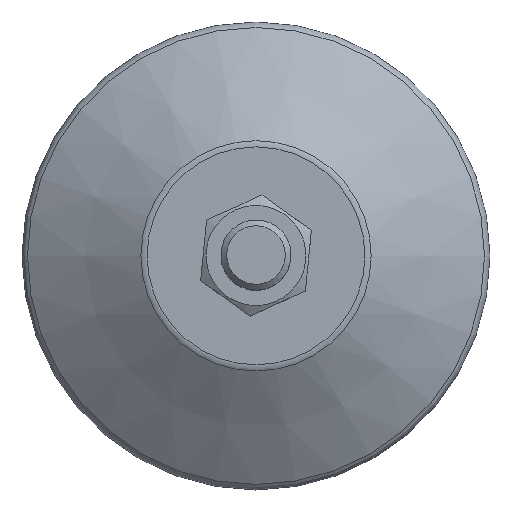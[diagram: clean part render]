
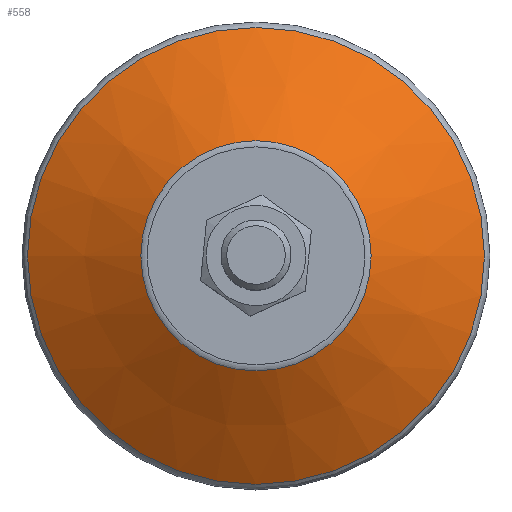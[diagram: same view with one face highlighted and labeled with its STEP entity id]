
A CAD part, top view. The second image highlights one B-rep face of the part: STEP entity #558.
In plain terms, the highlighted conical face has half-angle 58 degrees and reference radius 29.371 mm.
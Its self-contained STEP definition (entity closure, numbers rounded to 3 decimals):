
#558=ADVANCED_FACE('',(#2141,#2143),#2145,.T.);
#2141=FACE_BOUND('',#2142,.T.);
#2142=EDGE_LOOP('',(#3339,#3340));
#2143=FACE_BOUND('',#2144,.T.);
#2144=EDGE_LOOP('',(#3341,#3342));
#2145=CONICAL_SURFACE('',#2146,29.371,1.012);
#2146=AXIS2_PLACEMENT_3D('',#2147,#2148,#2149);
#2147=CARTESIAN_POINT('',(0.,0.,11.642));
#2148=DIRECTION('',(0.,0.,-1.));
#2149=DIRECTION('',(1.,0.,0.));
#3339=ORIENTED_EDGE('',*,*,#4107,.T.);
#3340=ORIENTED_EDGE('',*,*,#4108,.T.);
#3341=ORIENTED_EDGE('',*,*,#4106,.F.);
#3342=ORIENTED_EDGE('',*,*,#4105,.F.);
#4105=EDGE_CURVE('',#4575,#4576,#4577,.T.);
#4106=EDGE_CURVE('',#4576,#4575,#4578,.T.);
#4107=EDGE_CURVE('',#4579,#4580,#4581,.T.);
#4108=EDGE_CURVE('',#4580,#4579,#4582,.T.);
#4575=VERTEX_POINT('',#5891);
#4576=VERTEX_POINT('',#5892);
#4577=CIRCLE('',#5893,19.682);
#4578=CIRCLE('',#5897,19.682);
#4579=VERTEX_POINT('',#5901);
#4580=VERTEX_POINT('',#5902);
#4581=CIRCLE('',#5903,39.06);
#4582=CIRCLE('',#5907,39.06);
#5891=CARTESIAN_POINT('',(19.682,0.,17.696));
#5892=CARTESIAN_POINT('',(-19.682,0.,17.696));
#5893=AXIS2_PLACEMENT_3D('',#5894,#5895,#5896);
#5894=CARTESIAN_POINT('',(0.,0.,17.696));
#5895=DIRECTION('',(0.,0.,1.));
#5896=DIRECTION('',(1.,0.,0.));
#5897=AXIS2_PLACEMENT_3D('',#5898,#5899,#5900);
#5898=CARTESIAN_POINT('',(0.,0.,17.696));
#5899=DIRECTION('',(0.,0.,1.));
#5900=DIRECTION('',(-1.,0.,0.));
#5901=CARTESIAN_POINT('',(39.06,0.,5.587));
#5902=CARTESIAN_POINT('',(-39.06,0.,5.587));
#5903=AXIS2_PLACEMENT_3D('',#5904,#5905,#5906);
#5904=CARTESIAN_POINT('',(0.,0.,5.587));
#5905=DIRECTION('',(0.,0.,1.));
#5906=DIRECTION('',(1.,0.,0.));
#5907=AXIS2_PLACEMENT_3D('',#5908,#5909,#5910);
#5908=CARTESIAN_POINT('',(0.,0.,5.587));
#5909=DIRECTION('',(0.,0.,1.));
#5910=DIRECTION('',(-1.,0.,0.));
